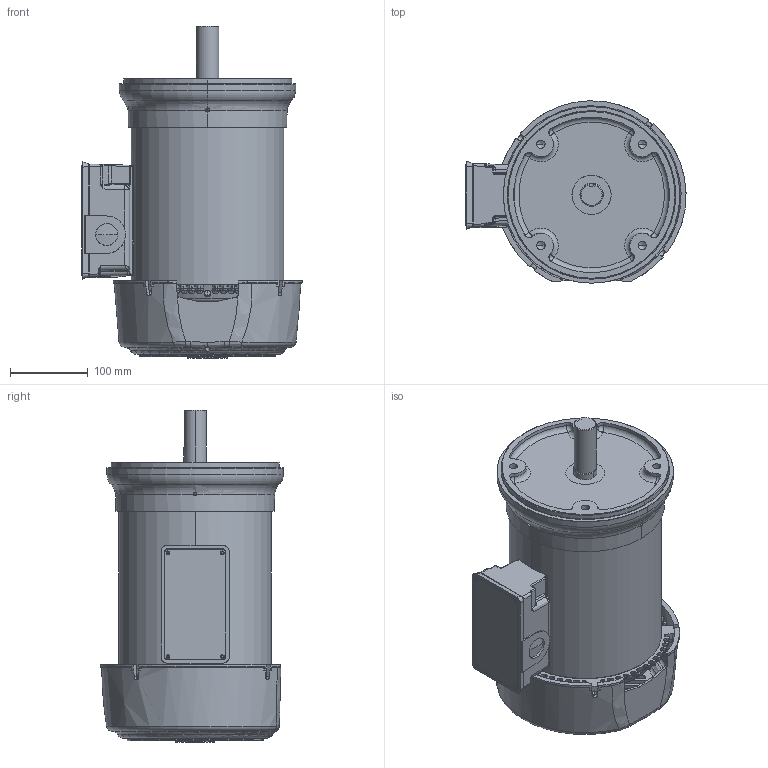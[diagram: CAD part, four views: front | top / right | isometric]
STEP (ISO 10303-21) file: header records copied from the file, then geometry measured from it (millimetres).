
FILE_DESCRIPTION((''),'2;1');
FILE_NAME('180_SSTL_ASM_ASM','2015-06-22T',('NMC2342'),('Nidec Motor Corporation'),'PRO/ENGINEER BY PARAMETRIC TECHNOLOGY CORPORATION, 2013150','PRO/ENGINEER BY PARAMETRIC TECHNOLOGY CORPORATION, 2013150','');
FILE_SCHEMA(('CONFIG_CONTROL_DESIGN'));
Length unit declared in the file: inch
Products named in the file (11): 0497464_AF0; 0903371; 0903372-BKT; 0345786; 0497463; 0361265; 0027197; PRT0002; 0391817; 0391816; 180_SSTL_ASM_ASM
Assembly tree (10 placements, depth 2):
  180_SSTL_ASM_ASM
    0497464_AF0
    0903371
    0903372-BKT
    0345786
    0497463
    0361265
    0027197
    PRT0002
    0391817
    0391816
Bounding box: 282.86 x 234.92 x 426.65 mm (x, y, z)
Volume: 2329820.4 mm3; surface area: 869892.1 mm2
Topology: 12 solids, 12 shells, 2887 faces, 7048 edges, 4150 vertices
Faces by surface type: bspline 1279, plane 525, cylinder 511, torus 233, cone 186, extrusion 90, sphere 63
Entity records: 154903 total; most frequent: CARTESIAN_POINT 96734, ORIENTED_EDGE 14032, DIRECTION 9337, EDGE_CURVE 7016, VERTEX_POINT 4150, AXIS2_PLACEMENT_3D 3758, B_SPLINE_CURVE_WITH_KNOTS 3156, EDGE_LOOP 3036
